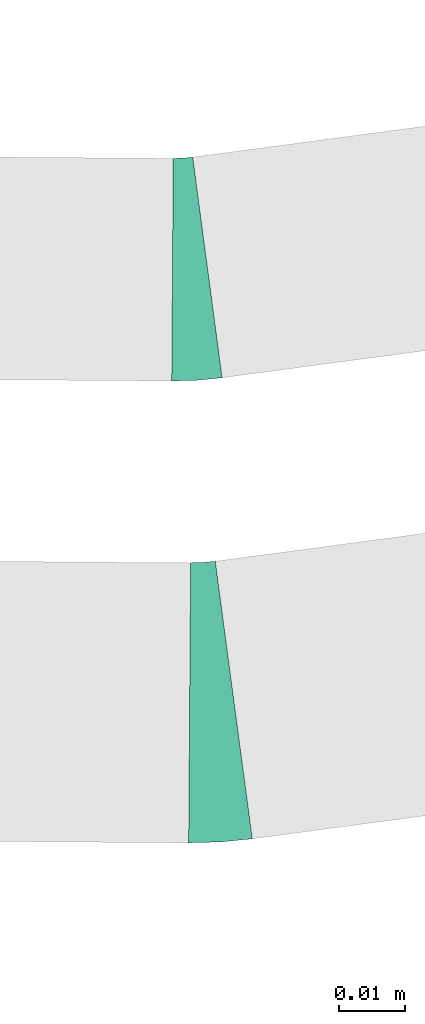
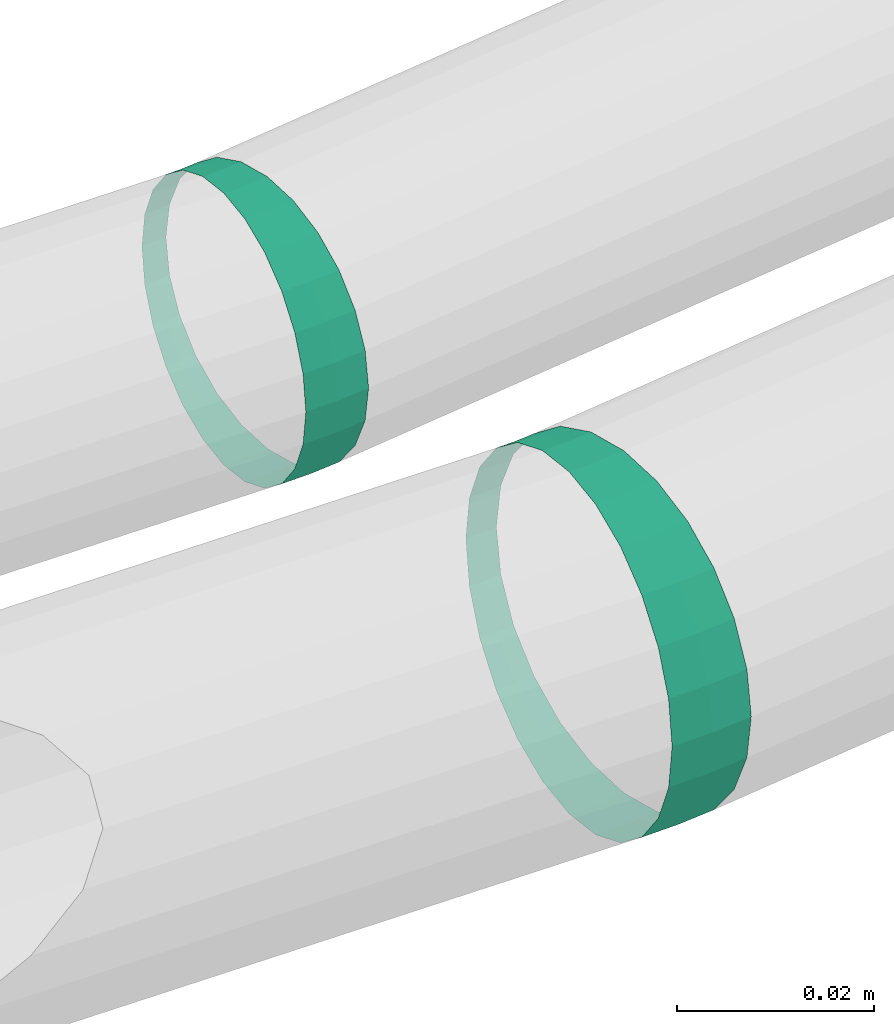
# One storey, part 357 of 374: 2 flow segments.
"""IFC2X3 building model written with IfcOpenShell, lengths in metres."""

from ifc_helpers import new_model, si_unit, direction, origin, place, context, subcontext, project, spatial, open_shell, surface_model, source, transform, mapped, element, save


model = new_model("IFC2X3")

# Units and contexts
model_context = context("Model", 3, precision=1e-05, world=origin(), true_north=direction((-0.4480736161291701, 0.8939966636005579)))
body_context = subcontext(model_context, "Body", "Model", "MODEL_VIEW")
ifc_project = project(units=[si_unit("LENGTHUNIT", "METRE"), si_unit("AREAUNIT", "SQUARE_METRE"), si_unit("VOLUMEUNIT", "CUBIC_METRE"), si_unit("PLANEANGLEUNIT", "RADIAN"), si_unit("THERMODYNAMICTEMPERATUREUNIT", "KELVIN"), si_unit("MASSUNIT", "GRAM", prefix="KILO"), si_unit("TIMEUNIT", "SECOND")], contexts=[model_context])

# Site, building, storey
site_placement = place(None, origin())
site = spatial("IfcSite", under=ifc_project, at=site_placement, Name="Site 1", CompositionType="ELEMENT")
building_placement = place(site_placement, origin())
building = spatial("IfcBuilding", under=site, at=building_placement, Name="Undefined", CompositionType="ELEMENT")
storey_placement = place(building_placement, origin())
storey = spatial("IfcBuildingStorey", under=building, at=storey_placement, Name="Rez de chauss\x8ee", CompositionType="ELEMENT", Elevation=0.0)

# Flow segments
shared_shape_1 = source(origin(), body_context, "Body", "SurfaceModel", [
    surface_model("IfcFaceBasedSurfaceModel", [(0.005512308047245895, 0.004830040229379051, -3.552713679e-15), (-2.177282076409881e-05, 0.004779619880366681, -3.552713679e-15), (0.0, 0.0, 0.0), (0.005534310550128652, 0.0, 0.0), (-2.1772820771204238e-05, -0.0047681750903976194, -0.00033056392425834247), (0.005512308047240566, -0.004818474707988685, -0.0003340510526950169), (-0.00536683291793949, 0.0046813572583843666, -0.001431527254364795), (-0.005345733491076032, 4.9562361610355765e-05, -0.001431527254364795), (-0.005366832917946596, -0.004571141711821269, -0.0017518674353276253), (-0.01015861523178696, 0.004541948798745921, -0.004197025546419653), (-0.010138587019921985, 0.00014530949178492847, -0.004197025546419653), (-0.01015861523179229, -0.004240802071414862, -0.004501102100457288), (-0.01407056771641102, 0.004370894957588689, -0.008108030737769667), (-0.01405193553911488, 0.0002807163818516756, -0.00810803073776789), (-0.014070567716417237, -0.003799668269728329, -0.008390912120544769), (-0.016836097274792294, 0.0041798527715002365, -0.012898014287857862), (-0.016819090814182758, 0.0004465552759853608, -0.012898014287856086), (-0.01683609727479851, -0.003277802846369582, -0.013156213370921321), (-0.01826673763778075, 0.003981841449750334, -0.018240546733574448), (-0.018251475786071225, 0.000631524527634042, -0.018240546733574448), (-0.018266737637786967, -0.002710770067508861, -0.018472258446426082), (-0.01826499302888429, 0.003790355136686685, -0.023771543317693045), (-0.018251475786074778, 0.0008230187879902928, -0.02377154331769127), (-0.018264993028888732, -0.0021372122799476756, -0.023976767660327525), (-0.016830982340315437, 0.003618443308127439, -0.02911407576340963), (-0.01681909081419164, 0.0010079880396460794, -0.02911407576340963), (-0.0168309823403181, -0.001596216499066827, -0.029294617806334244), (-0.014062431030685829, 0.003477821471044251, -0.03390405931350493), (-0.01405193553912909, 0.00117382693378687, -0.03390405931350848), (-0.014062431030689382, -0.001124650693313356, -0.03406340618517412), (-0.010148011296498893, 0.003378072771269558, -0.037815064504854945), (-0.010138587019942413, 0.0013092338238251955, -0.0378150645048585), (-0.010148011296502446, -0.0007546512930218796, -0.03795814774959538), (-0.005354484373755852, 0.0033259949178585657, -0.040580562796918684), (-0.005345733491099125, 0.0014049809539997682, -0.04058056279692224), (-0.005354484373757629, -0.000511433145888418, -0.04071342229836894), (-8.52120056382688e-06, 0.003325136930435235, -0.042012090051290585), (-2.4868995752e-14, 0.0014545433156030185, -0.04201209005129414), (-8.521200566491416e-06, -0.000411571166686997, -0.042141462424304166), (0.005525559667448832, 0.003375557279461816, -0.04201209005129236), (0.005534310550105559, 0.0014545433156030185, -0.042012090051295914), (0.005525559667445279, -0.0004618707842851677, -0.04214494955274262), (0.010870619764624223, 0.00347381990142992, -0.04058056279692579), (0.010880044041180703, 0.0014049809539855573, -0.04058056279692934), (0.01087061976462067, -0.0006589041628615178, -0.04072364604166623), (0.015662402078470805, 0.003613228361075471, -0.03781506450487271), (0.015672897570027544, 0.00130923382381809, -0.03781506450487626), (0.015662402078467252, -0.000989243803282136, -0.037974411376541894), (0.019574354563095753, 0.003784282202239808, -0.03390405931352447), (0.01958624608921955, 0.0011738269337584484, -0.03390405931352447), (0.0195743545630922, -0.001430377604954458, -0.034084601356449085), (0.02233988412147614, 0.00397532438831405, -0.0291140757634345), (0.02235340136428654, 0.0010079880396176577, -0.029114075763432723), (0.022339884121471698, -0.0019522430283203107, -0.02931930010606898), (0.023770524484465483, 0.004173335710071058, -0.02377154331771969), (0.023785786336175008, 0.0008230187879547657, -0.02377154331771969), (0.023770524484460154, -0.002519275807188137, -0.024003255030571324), (0.023768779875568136, 0.004364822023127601, -0.018240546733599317), (0.02378578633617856, 0.0006315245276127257, -0.01824054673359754), (0.023768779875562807, -0.003092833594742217, -0.018498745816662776), (0.02233476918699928, 0.004536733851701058, -0.012898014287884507), (0.02235340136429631, 0.00044655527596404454, -0.01289801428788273), (0.022334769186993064, -0.00363382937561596, -0.01318089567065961), (0.019566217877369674, 0.004677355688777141, -0.00810803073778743), (0.01958624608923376, 0.00028071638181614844, -0.00810803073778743), (0.019566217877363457, -0.004105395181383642, -0.008412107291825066), (0.015651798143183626, 0.004777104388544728, -0.00419702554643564), (0.015672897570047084, 0.00014530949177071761, -0.00419702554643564), (0.01565179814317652, -0.0044753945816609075, -0.00451736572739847), (0.010858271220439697, 0.0048291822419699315, -0.0014315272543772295), (0.010880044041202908, 4.956236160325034e-05, -0.0014315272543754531), (0.010858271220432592, -0.004718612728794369, -0.0017620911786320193)], [open_shell([[[0, 1, 2, 3]], [[3, 2, 4, 5]], [[1, 6, 7, 2]], [[2, 7, 8, 4]], [[6, 9, 10, 7]], [[7, 10, 11, 8]], [[9, 12, 13, 10]], [[10, 13, 14, 11]], [[12, 15, 16, 13]], [[13, 16, 17, 14]], [[15, 18, 19, 16]], [[16, 19, 20, 17]], [[18, 21, 22, 19]], [[19, 22, 23, 20]], [[21, 24, 25, 22]], [[22, 25, 26, 23]], [[24, 27, 28, 25]], [[25, 28, 29, 26]], [[27, 30, 31, 28]], [[28, 31, 32, 29]], [[30, 33, 34, 31]], [[31, 34, 35, 32]], [[33, 36, 37, 34]], [[34, 37, 38, 35]], [[36, 39, 40, 37]], [[37, 40, 41, 38]], [[39, 42, 43, 40]], [[40, 43, 44, 41]], [[42, 45, 46, 43]], [[43, 46, 47, 44]], [[45, 48, 49, 46]], [[46, 49, 50, 47]], [[48, 51, 52, 49]], [[49, 52, 53, 50]], [[51, 54, 55, 52]], [[52, 55, 56, 53]], [[54, 57, 58, 55]], [[55, 58, 59, 56]], [[57, 60, 61, 58]], [[58, 61, 62, 59]], [[60, 63, 64, 61]], [[61, 64, 65, 62]], [[63, 66, 67, 64]], [[64, 67, 68, 65]], [[66, 69, 70, 67]], [[67, 70, 71, 68]], [[69, 0, 3, 70]], [[70, 3, 5, 71]]])]),
])
flow_segment_1_placement = place(storey_placement, origin())
element("IfcFlowSegment", 1, at=flow_segment_1_placement, inside=storey, Name="Tube coudé", ObjectType="Tube coudé", context=body_context, shape_type="MappedRepresentation", body=[
    mapped(shared_shape_1, transform((56.81548430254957, 18.785984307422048, 4.0106273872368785), x_axis=(0.008195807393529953, -0.13026862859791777, -0.9914448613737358), y_axis=(0.9952750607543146, 0.09699049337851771, -0.004516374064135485), z_axis=(0.09674906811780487, -0.9867233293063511, 0.13044803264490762))),
])
shared_shape_2 = source(origin(), body_context, "Body", "SurfaceModel", [
    surface_model("IfcFaceBasedSurfaceModel", [(0.004381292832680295, 0.0038284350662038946, -3.552713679e-15), (-1.7257291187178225e-05, 0.003788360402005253, 1.776356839e-15), (0.0, 0.0, 0.0), (0.004398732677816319, 0.0, -7.105427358e-15), (-1.7257291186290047e-05, -0.003779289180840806, -0.00026200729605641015), (0.004381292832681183, -0.0038192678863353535, -0.00026477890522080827), (-0.004265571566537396, 0.0037102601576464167, -0.0011377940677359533), (-0.004248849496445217, 3.9392726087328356e-05, -0.0011377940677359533), (-0.004265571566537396, -0.0036226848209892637, -0.0013916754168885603), (-0.008074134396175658, 0.0035994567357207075, -0.0033358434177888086), (-0.008058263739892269, 0.00011549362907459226, -0.003335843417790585), (-0.00807413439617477, -0.003360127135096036, -0.003576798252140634), (-0.011183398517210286, 0.003463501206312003, -0.006444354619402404), (-0.011168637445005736, 0.00022311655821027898, -0.0064443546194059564), (-0.011183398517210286, -0.003009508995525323, -0.006668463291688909), (-0.013381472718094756, 0.003311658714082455, -0.01025148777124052), (-0.013368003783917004, 0.00035492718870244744, -0.010251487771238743), (-0.013381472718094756, -0.0025947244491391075, -0.01045597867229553), (-0.014518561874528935, 0.003154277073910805, -0.01449779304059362), (-0.014506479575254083, 0.0005019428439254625, -0.014497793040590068), (-0.014518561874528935, -0.0021440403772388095, -0.014681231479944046), (-0.014517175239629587, 0.003002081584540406, -0.01889389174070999), (-0.014506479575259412, 0.0006541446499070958, -0.01889389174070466), (-0.014517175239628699, -0.0016881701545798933, -0.019056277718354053), (-0.013377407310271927, 0.002865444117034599, -0.023140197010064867), (-0.013368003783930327, 0.0008011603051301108, -0.023140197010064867), (-0.013377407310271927, -0.0012581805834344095, -0.02328296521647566), (-0.011176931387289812, 0.0027536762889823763, -0.026947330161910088), (-0.011168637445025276, 0.0009329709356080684, -0.026947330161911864), (-0.011176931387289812, -0.0008833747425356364, -0.027073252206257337), (-0.008065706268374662, 0.0026743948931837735, -0.030055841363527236), (-0.008058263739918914, 0.0010405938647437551, -0.03005584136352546), (-0.008065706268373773, -0.0005892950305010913, -0.030168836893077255), (-0.0042557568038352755, 0.0026330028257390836, -0.0322538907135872), (-0.004248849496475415, 0.0011166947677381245, -0.03225389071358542), (-0.004255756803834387, -0.00039598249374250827, -0.032358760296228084), (-6.724753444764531e-06, 0.002632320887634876, -0.03339168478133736), (-3.3750779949e-14, 0.0011560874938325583, -0.033391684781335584), (-6.724753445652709e-06, -0.00031661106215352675, -0.0334937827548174), (0.004391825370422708, 0.0026723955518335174, -0.033391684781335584), (0.004398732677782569, 0.0011560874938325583, -0.03339168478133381), (0.0043918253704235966, -0.0003565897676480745, -0.03349655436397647), (0.008640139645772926, 0.0027504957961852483, -0.03225389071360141), (0.008647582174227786, 0.00111669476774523, -0.03225389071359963), (0.008640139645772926, -0.0005131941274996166, -0.03236688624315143), (0.012448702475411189, 0.0028612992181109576, -0.030055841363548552), (0.012456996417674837, 0.0010405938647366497, -0.03005584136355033), (0.012448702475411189, -0.0007757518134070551, -0.0301817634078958), (0.015557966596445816, 0.0029972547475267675, -0.026947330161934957), (0.015567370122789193, 0.0009329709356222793, -0.026947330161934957), (0.015557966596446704, -0.001126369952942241, -0.02709009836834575), (0.017756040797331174, 0.0031490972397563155, -0.02314019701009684), (0.01776673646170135, 0.0008011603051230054, -0.023140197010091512), (0.017756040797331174, -0.0015411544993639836, -0.023302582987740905), (0.018893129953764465, 0.003306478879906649, -0.018893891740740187), (0.018905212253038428, 0.0006541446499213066, -0.018893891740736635), (0.018893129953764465, -0.0019918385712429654, -0.019077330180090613), (0.018891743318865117, 0.0034586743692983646, -0.014497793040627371), (0.01890521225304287, 0.0005019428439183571, -0.014497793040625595), (0.018891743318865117, -0.002447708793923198, -0.014702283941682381), (0.017751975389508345, 0.0035953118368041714, -0.010251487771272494), (0.017766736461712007, 0.00035492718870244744, -0.010251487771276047), (0.017751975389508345, -0.0028776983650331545, -0.010475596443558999), (0.015551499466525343, 0.0037070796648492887, -0.006444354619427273), (0.015567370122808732, 0.00022311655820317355, -0.006444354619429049), (0.01555149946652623, -0.0032525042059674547, -0.006685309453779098), (0.012440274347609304, 0.0037863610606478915, -0.003335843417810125), (0.012456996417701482, 0.00011549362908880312, -0.003335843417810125), (0.012440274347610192, -0.003546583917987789, -0.003589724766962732), (0.008630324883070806, 0.003827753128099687, -0.0011377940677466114), (0.008647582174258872, 3.939272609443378e-05, -0.0011377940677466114), (0.008630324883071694, -0.003739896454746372, -0.001399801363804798)], [open_shell([[[0, 1, 2, 3]], [[3, 2, 4, 5]], [[1, 6, 7, 2]], [[2, 7, 8, 4]], [[6, 9, 10, 7]], [[7, 10, 11, 8]], [[9, 12, 13, 10]], [[10, 13, 14, 11]], [[12, 15, 16, 13]], [[13, 16, 17, 14]], [[15, 18, 19, 16]], [[16, 19, 20, 17]], [[18, 21, 22, 19]], [[19, 22, 23, 20]], [[21, 24, 25, 22]], [[22, 25, 26, 23]], [[24, 27, 28, 25]], [[25, 28, 29, 26]], [[27, 30, 31, 28]], [[28, 31, 32, 29]], [[30, 33, 34, 31]], [[31, 34, 35, 32]], [[33, 36, 37, 34]], [[34, 37, 38, 35]], [[36, 39, 40, 37]], [[37, 40, 41, 38]], [[39, 42, 43, 40]], [[40, 43, 44, 41]], [[42, 45, 46, 43]], [[43, 46, 47, 44]], [[45, 48, 49, 46]], [[46, 49, 50, 47]], [[48, 51, 52, 49]], [[49, 52, 53, 50]], [[51, 54, 55, 52]], [[52, 55, 56, 53]], [[54, 57, 58, 55]], [[55, 58, 59, 56]], [[57, 60, 61, 58]], [[58, 61, 62, 59]], [[60, 63, 64, 61]], [[61, 64, 65, 62]], [[63, 66, 67, 64]], [[64, 67, 68, 65]], [[66, 69, 70, 67]], [[67, 70, 71, 68]], [[69, 0, 3, 70]], [[70, 3, 5, 71]]])]),
])
flow_segment_2_placement = place(storey_placement, origin())
element("IfcFlowSegment", 2, at=flow_segment_2_placement, inside=storey, Name="Tube coudé", ObjectType="Tube coudé", context=body_context, shape_type="MappedRepresentation", body=[
    mapped(shared_shape_2, transform((56.81192524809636, 18.855727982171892, 4.009501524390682), x_axis=(0.008195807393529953, -0.13026862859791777, -0.9914448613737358), y_axis=(0.9952750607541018, 0.09699049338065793, -0.004516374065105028), z_axis=(0.09674906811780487, -0.9867233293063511, 0.13044803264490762))),
])

save(model, "model.ifc")
